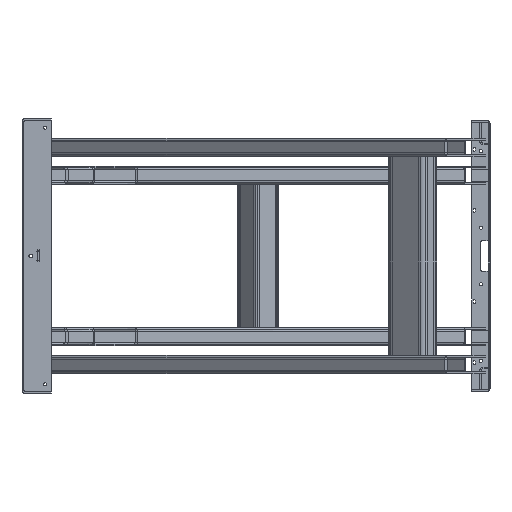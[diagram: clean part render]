
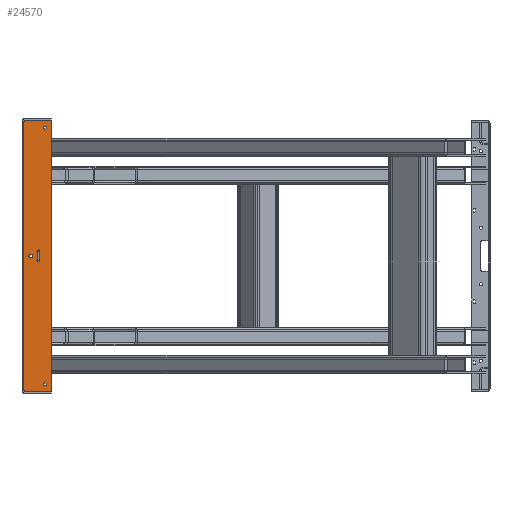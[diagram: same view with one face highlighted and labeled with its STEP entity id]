
A CAD part, left-side view. The second image highlights one B-rep face of the part: STEP entity #24570.
In plain terms, the highlighted planar face has unit normal (-1, 0, 0) as drawn and (0, 0, -1) by its records, which use the part's own axes.
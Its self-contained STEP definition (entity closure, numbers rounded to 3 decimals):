
#1012=PLANE('',#27209);
#3058=LINE('',#41772,#5240);
#3064=LINE('',#41796,#5246);
#3070=LINE('',#41820,#5252);
#3076=LINE('',#41843,#5258);
#3080=LINE('',#41856,#5262);
#3081=LINE('',#41860,#5263);
#3082=LINE('',#41862,#5264);
#3083=LINE('',#41864,#5265);
#3084=LINE('',#41866,#5266);
#3085=LINE('',#41867,#5267);
#5240=VECTOR('',#34016,10.);
#5246=VECTOR('',#34042,10.);
#5252=VECTOR('',#34068,10.);
#5258=VECTOR('',#34094,10.);
#5262=VECTOR('',#34106,10.);
#5263=VECTOR('',#34109,10.);
#5264=VECTOR('',#34110,10.);
#5265=VECTOR('',#34111,10.);
#5266=VECTOR('',#34112,10.);
#5267=VECTOR('',#34113,10.);
#5784=FACE_BOUND('',#8570,.T.);
#5785=FACE_BOUND('',#8571,.T.);
#5786=FACE_BOUND('',#8572,.T.);
#5787=FACE_BOUND('',#8573,.T.);
#6956=FACE_OUTER_BOUND('',#8569,.T.);
#8569=EDGE_LOOP('',(#22121,#22122,#22123,#22124,#22125,#22126,#22127,#22128));
#8570=EDGE_LOOP('',(#22129,#22130,#22131,#22132,#22133,#22134,#22135,#22136,
#22137,#22138,#22139,#22140,#22141,#22142,#22143,#22144));
#8571=EDGE_LOOP('',(#22145));
#8572=EDGE_LOOP('',(#22146));
#8573=EDGE_LOOP('',(#22147));
#9854=CIRCLE('',#27167,1.);
#9856=CIRCLE('',#27170,1.);
#9858=CIRCLE('',#27173,1.);
#9860=CIRCLE('',#27177,1.);
#9862=CIRCLE('',#27180,1.);
#9864=CIRCLE('',#27183,1.);
#9866=CIRCLE('',#27187,1.);
#9868=CIRCLE('',#27190,1.);
#9870=CIRCLE('',#27193,1.);
#9872=CIRCLE('',#27197,1.);
#9874=CIRCLE('',#27200,1.);
#9876=CIRCLE('',#27203,1.);
#9879=CIRCLE('',#27208,1.);
#9880=CIRCLE('',#27210,1.);
#9881=CIRCLE('',#27211,5.);
#9882=CIRCLE('',#27212,5.);
#9883=CIRCLE('',#27213,6.25);
#12083=VERTEX_POINT('',#41750);
#12084=VERTEX_POINT('',#41751);
#12087=VERTEX_POINT('',#41759);
#12089=VERTEX_POINT('',#41765);
#12091=VERTEX_POINT('',#41771);
#12093=VERTEX_POINT('',#41777);
#12095=VERTEX_POINT('',#41783);
#12097=VERTEX_POINT('',#41789);
#12099=VERTEX_POINT('',#41795);
#12101=VERTEX_POINT('',#41801);
#12103=VERTEX_POINT('',#41807);
#12105=VERTEX_POINT('',#41813);
#12107=VERTEX_POINT('',#41819);
#12109=VERTEX_POINT('',#41825);
#12111=VERTEX_POINT('',#41831);
#12113=VERTEX_POINT('',#41837);
#12117=VERTEX_POINT('',#41849);
#12118=VERTEX_POINT('',#41851);
#12119=VERTEX_POINT('',#41855);
#12120=VERTEX_POINT('',#41857);
#12121=VERTEX_POINT('',#41859);
#12122=VERTEX_POINT('',#41861);
#12123=VERTEX_POINT('',#41863);
#12124=VERTEX_POINT('',#41865);
#12125=VERTEX_POINT('',#41868);
#12126=VERTEX_POINT('',#41870);
#12127=VERTEX_POINT('',#41872);
#15454=EDGE_CURVE('',#12083,#12084,#9854,.T.);
#15458=EDGE_CURVE('',#12084,#12087,#9856,.T.);
#15461=EDGE_CURVE('',#12087,#12089,#9858,.T.);
#15464=EDGE_CURVE('',#12089,#12091,#3058,.T.);
#15467=EDGE_CURVE('',#12091,#12093,#9860,.T.);
#15470=EDGE_CURVE('',#12093,#12095,#9862,.T.);
#15473=EDGE_CURVE('',#12095,#12097,#9864,.T.);
#15476=EDGE_CURVE('',#12097,#12099,#3064,.T.);
#15479=EDGE_CURVE('',#12099,#12101,#9866,.T.);
#15482=EDGE_CURVE('',#12101,#12103,#9868,.T.);
#15485=EDGE_CURVE('',#12103,#12105,#9870,.T.);
#15488=EDGE_CURVE('',#12105,#12107,#3070,.T.);
#15491=EDGE_CURVE('',#12107,#12109,#9872,.T.);
#15494=EDGE_CURVE('',#12109,#12111,#9874,.T.);
#15497=EDGE_CURVE('',#12111,#12113,#9876,.T.);
#15500=EDGE_CURVE('',#12113,#12083,#3076,.T.);
#15504=EDGE_CURVE('',#12117,#12118,#9879,.T.);
#15506=EDGE_CURVE('',#12117,#12119,#3080,.T.);
#15507=EDGE_CURVE('',#12120,#12119,#9880,.T.);
#15508=EDGE_CURVE('',#12120,#12121,#3081,.T.);
#15509=EDGE_CURVE('',#12122,#12121,#3082,.T.);
#15510=EDGE_CURVE('',#12122,#12123,#3083,.T.);
#15511=EDGE_CURVE('',#12124,#12123,#3084,.T.);
#15512=EDGE_CURVE('',#12124,#12118,#3085,.T.);
#15513=EDGE_CURVE('',#12125,#12125,#9881,.T.);
#15514=EDGE_CURVE('',#12126,#12126,#9882,.T.);
#15515=EDGE_CURVE('',#12127,#12127,#9883,.T.);
#22121=ORIENTED_EDGE('',*,*,#15504,.F.);
#22122=ORIENTED_EDGE('',*,*,#15506,.T.);
#22123=ORIENTED_EDGE('',*,*,#15507,.F.);
#22124=ORIENTED_EDGE('',*,*,#15508,.T.);
#22125=ORIENTED_EDGE('',*,*,#15509,.F.);
#22126=ORIENTED_EDGE('',*,*,#15510,.T.);
#22127=ORIENTED_EDGE('',*,*,#15511,.F.);
#22128=ORIENTED_EDGE('',*,*,#15512,.T.);
#22129=ORIENTED_EDGE('',*,*,#15454,.T.);
#22130=ORIENTED_EDGE('',*,*,#15458,.T.);
#22131=ORIENTED_EDGE('',*,*,#15461,.T.);
#22132=ORIENTED_EDGE('',*,*,#15464,.T.);
#22133=ORIENTED_EDGE('',*,*,#15467,.T.);
#22134=ORIENTED_EDGE('',*,*,#15470,.T.);
#22135=ORIENTED_EDGE('',*,*,#15473,.T.);
#22136=ORIENTED_EDGE('',*,*,#15476,.T.);
#22137=ORIENTED_EDGE('',*,*,#15479,.T.);
#22138=ORIENTED_EDGE('',*,*,#15482,.T.);
#22139=ORIENTED_EDGE('',*,*,#15485,.T.);
#22140=ORIENTED_EDGE('',*,*,#15488,.T.);
#22141=ORIENTED_EDGE('',*,*,#15491,.T.);
#22142=ORIENTED_EDGE('',*,*,#15494,.T.);
#22143=ORIENTED_EDGE('',*,*,#15497,.T.);
#22144=ORIENTED_EDGE('',*,*,#15500,.T.);
#22145=ORIENTED_EDGE('',*,*,#15513,.T.);
#22146=ORIENTED_EDGE('',*,*,#15514,.T.);
#22147=ORIENTED_EDGE('',*,*,#15515,.T.);
#24570=ADVANCED_FACE('',(#6956,#5784,#5785,#5786,#5787),#1012,.F.);
#27167=AXIS2_PLACEMENT_3D('',#41752,#33994,#33995);
#27170=AXIS2_PLACEMENT_3D('',#41760,#34002,#34003);
#27173=AXIS2_PLACEMENT_3D('',#41766,#34009,#34010);
#27177=AXIS2_PLACEMENT_3D('',#41778,#34021,#34022);
#27180=AXIS2_PLACEMENT_3D('',#41784,#34028,#34029);
#27183=AXIS2_PLACEMENT_3D('',#41790,#34035,#34036);
#27187=AXIS2_PLACEMENT_3D('',#41802,#34047,#34048);
#27190=AXIS2_PLACEMENT_3D('',#41808,#34054,#34055);
#27193=AXIS2_PLACEMENT_3D('',#41814,#34061,#34062);
#27197=AXIS2_PLACEMENT_3D('',#41826,#34073,#34074);
#27200=AXIS2_PLACEMENT_3D('',#41832,#34080,#34081);
#27203=AXIS2_PLACEMENT_3D('',#41838,#34087,#34088);
#27208=AXIS2_PLACEMENT_3D('',#41852,#34101,#34102);
#27209=AXIS2_PLACEMENT_3D('',#41854,#34104,#34105);
#27210=AXIS2_PLACEMENT_3D('',#41858,#34107,#34108);
#27211=AXIS2_PLACEMENT_3D('',#41869,#34114,#34115);
#27212=AXIS2_PLACEMENT_3D('',#41871,#34116,#34117);
#27213=AXIS2_PLACEMENT_3D('',#41873,#34118,#34119);
#33994=DIRECTION('center_axis',(0.,0.,-1.));
#33995=DIRECTION('ref_axis',(-0.866,-0.5,0.));
#34002=DIRECTION('center_axis',(0.,0.,1.));
#34003=DIRECTION('ref_axis',(-0.866,-0.5,0.));
#34009=DIRECTION('center_axis',(0.,0.,-1.));
#34010=DIRECTION('ref_axis',(1.,0.,0.));
#34016=DIRECTION('',(0.,-1.,0.));
#34021=DIRECTION('center_axis',(0.,0.,-1.));
#34022=DIRECTION('ref_axis',(0.5,-0.866,0.));
#34028=DIRECTION('center_axis',(0.,0.,1.));
#34029=DIRECTION('ref_axis',(0.5,-0.866,0.));
#34035=DIRECTION('center_axis',(0.,0.,-1.));
#34036=DIRECTION('ref_axis',(0.,1.,0.));
#34042=DIRECTION('',(1.,0.,0.));
#34047=DIRECTION('center_axis',(0.,0.,-1.));
#34048=DIRECTION('ref_axis',(0.866,0.5,0.));
#34054=DIRECTION('center_axis',(0.,0.,1.));
#34055=DIRECTION('ref_axis',(0.866,0.5,0.));
#34061=DIRECTION('center_axis',(0.,0.,-1.));
#34062=DIRECTION('ref_axis',(-1.,0.,0.));
#34068=DIRECTION('',(0.,1.,0.));
#34073=DIRECTION('center_axis',(0.,0.,-1.));
#34074=DIRECTION('ref_axis',(-0.5,0.866,0.));
#34080=DIRECTION('center_axis',(0.,0.,1.));
#34081=DIRECTION('ref_axis',(-0.5,0.866,0.));
#34087=DIRECTION('center_axis',(0.,0.,-1.));
#34088=DIRECTION('ref_axis',(0.,-1.,0.));
#34094=DIRECTION('',(-1.,0.,0.));
#34101=DIRECTION('center_axis',(0.,0.,1.));
#34102=DIRECTION('ref_axis',(0.707,-0.707,0.));
#34104=DIRECTION('center_axis',(0.,0.,1.));
#34105=DIRECTION('ref_axis',(1.,0.,0.));
#34106=DIRECTION('',(-1.,0.,0.));
#34107=DIRECTION('center_axis',(0.,0.,1.));
#34108=DIRECTION('ref_axis',(-0.707,-0.707,0.));
#34109=DIRECTION('',(0.,1.,0.));
#34110=DIRECTION('',(-0.707,-0.707,0.));
#34111=DIRECTION('',(1.,0.,0.));
#34112=DIRECTION('',(-0.707,0.707,0.));
#34113=DIRECTION('',(0.,-1.,0.));
#34114=DIRECTION('center_axis',(0.,0.,1.));
#34115=DIRECTION('ref_axis',(1.,0.,0.));
#34116=DIRECTION('center_axis',(0.,0.,1.));
#34117=DIRECTION('ref_axis',(1.,0.,0.));
#34118=DIRECTION('center_axis',(0.,0.,1.));
#34119=DIRECTION('ref_axis',(1.,0.,0.));
#41750=CARTESIAN_POINT('',(-14.318,1.1,0.));
#41751=CARTESIAN_POINT('',(-15.184,1.6,0.));
#41752=CARTESIAN_POINT('Origin',(-14.318,2.1,0.));
#41759=CARTESIAN_POINT('',(-16.55,0.234,0.));
#41760=CARTESIAN_POINT('Origin',(-16.05,1.1,0.));
#41765=CARTESIAN_POINT('',(-16.05,-0.632,0.));
#41766=CARTESIAN_POINT('Origin',(-17.05,-0.632,0.));
#41771=CARTESIAN_POINT('',(-16.05,-3.268,0.));
#41772=CARTESIAN_POINT('',(-16.05,-0.316,0.));
#41777=CARTESIAN_POINT('',(-16.55,-4.134,0.));
#41778=CARTESIAN_POINT('Origin',(-17.05,-3.268,0.));
#41783=CARTESIAN_POINT('',(-15.184,-5.5,0.));
#41784=CARTESIAN_POINT('Origin',(-16.05,-5.,0.));
#41789=CARTESIAN_POINT('',(-14.318,-5.,0.));
#41790=CARTESIAN_POINT('Origin',(-14.318,-6.,0.));
#41795=CARTESIAN_POINT('',(12.318,-5.,0.));
#41796=CARTESIAN_POINT('',(-7.159,-5.,0.));
#41801=CARTESIAN_POINT('',(13.184,-5.5,0.));
#41802=CARTESIAN_POINT('Origin',(12.318,-6.,0.));
#41807=CARTESIAN_POINT('',(14.55,-4.134,0.));
#41808=CARTESIAN_POINT('Origin',(14.05,-5.,0.));
#41813=CARTESIAN_POINT('',(14.05,-3.268,0.));
#41814=CARTESIAN_POINT('Origin',(15.05,-3.268,0.));
#41819=CARTESIAN_POINT('',(14.05,-0.632,0.));
#41820=CARTESIAN_POINT('',(14.05,-1.634,0.));
#41825=CARTESIAN_POINT('',(14.55,0.234,0.));
#41826=CARTESIAN_POINT('Origin',(15.05,-0.632,0.));
#41831=CARTESIAN_POINT('',(13.184,1.6,0.));
#41832=CARTESIAN_POINT('Origin',(14.05,1.1,0.));
#41837=CARTESIAN_POINT('',(12.318,1.1,0.));
#41838=CARTESIAN_POINT('Origin',(12.318,2.1,0.));
#41843=CARTESIAN_POINT('',(6.159,1.1,0.));
#41849=CARTESIAN_POINT('',(442.5,-45.,0.));
#41851=CARTESIAN_POINT('',(443.5,-44.,0.));
#41852=CARTESIAN_POINT('Origin',(442.5,-44.,0.));
#41854=CARTESIAN_POINT('Origin',(0.,0.,
0.));
#41855=CARTESIAN_POINT('',(-442.5,-45.,0.));
#41856=CARTESIAN_POINT('',(443.5,-45.,0.));
#41857=CARTESIAN_POINT('',(-443.5,-44.,0.));
#41858=CARTESIAN_POINT('Origin',(-442.5,-44.,0.));
#41859=CARTESIAN_POINT('',(-443.5,39.,0.));
#41860=CARTESIAN_POINT('',(-443.5,-45.,0.));
#41861=CARTESIAN_POINT('',(-437.5,45.,0.));
#41862=CARTESIAN_POINT('',(-340.875,141.625,0.));
#41863=CARTESIAN_POINT('',(437.5,45.,0.));
#41864=CARTESIAN_POINT('',(-443.5,45.,0.));
#41865=CARTESIAN_POINT('',(443.5,39.,0.));
#41866=CARTESIAN_POINT('',(340.875,141.625,0.));
#41867=CARTESIAN_POINT('',(443.5,45.,0.));
#41868=CARTESIAN_POINT('',(414.5,-25.,0.));
#41869=CARTESIAN_POINT('Origin',(419.5,-25.,0.));
#41870=CARTESIAN_POINT('',(-424.5,-25.,0.));
#41871=CARTESIAN_POINT('Origin',(-419.5,-25.,0.));
#41872=CARTESIAN_POINT('',(-6.25,22.,0.));
#41873=CARTESIAN_POINT('Origin',(0.,22.,0.));
